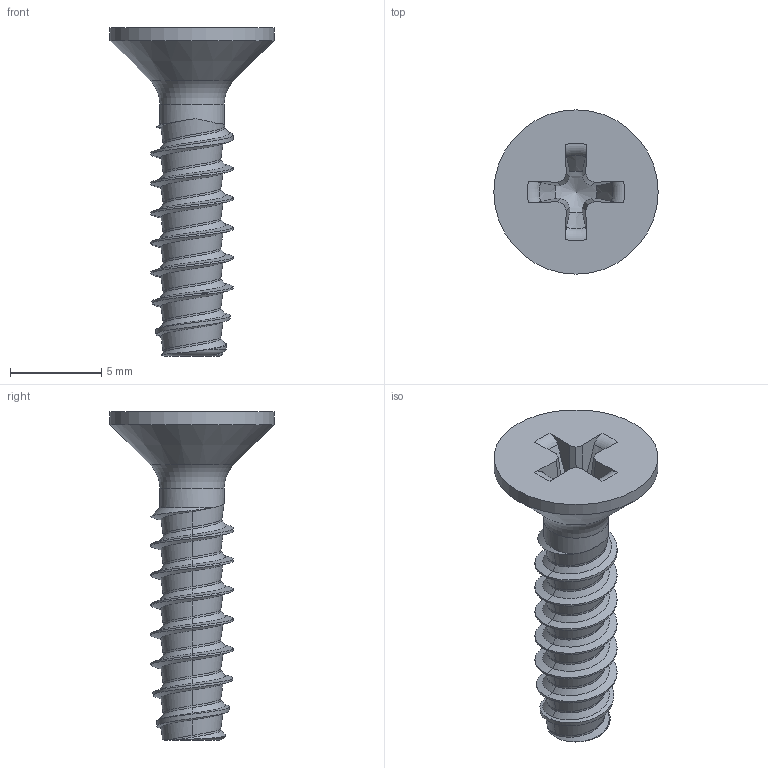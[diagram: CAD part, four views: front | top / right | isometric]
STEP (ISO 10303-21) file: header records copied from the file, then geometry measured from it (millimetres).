
FILE_DESCRIPTION(/* description */ (''),/* implementation_level */ '2;1');
FILE_NAME(/* name */ 'KN6041-STSplus-45x18-H2.step',/* time_stamp */ '2017-10-12T12:42:08+02:00',/* author */ (''),/* organization */ (''),/* preprocessor_version */ 'ST-DEVELOPER v16',/* originating_system */ 'SIEMENS PLM Software NX 10.0',/* authorisation */ '');
FILE_SCHEMA (('AUTOMOTIVE_DESIGN { 1 0 10303 214 3 1 1 1 }'));
Length unit declared in the file: millimetre
Products named in the file (1): KN6041-STSplus-45x18-H2
Bounding box: 9 x 9 x 18 mm (x, y, z)
Volume: 263.3 mm3; surface area: 420.1 mm2
Topology: 1 solids, 1 shells, 79 faces, 198 edges, 121 vertices
Faces by surface type: bspline 44, plane 18, cone 8, torus 6, cylinder 3
Full cylindrical faces by diameter (mm): 3.53 x1, 9 x1
Entity records: 4659 total; most frequent: CARTESIAN_POINT 3131, ORIENTED_EDGE 374, EDGE_CURVE 187, DIRECTION 181, VERTEX_POINT 117, B_SPLINE_CURVE_WITH_KNOTS 99, EDGE_LOOP 85, ADVANCED_FACE 79
